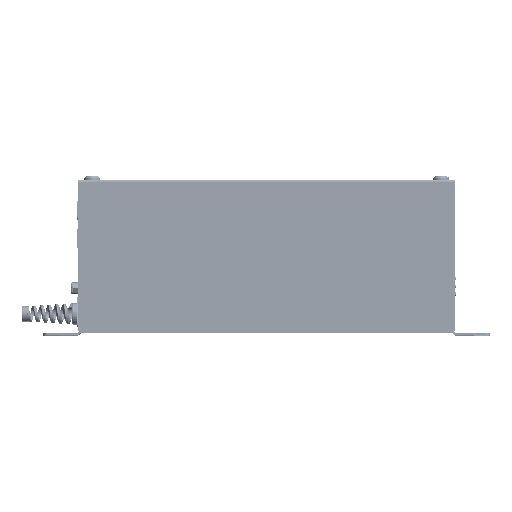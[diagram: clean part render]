
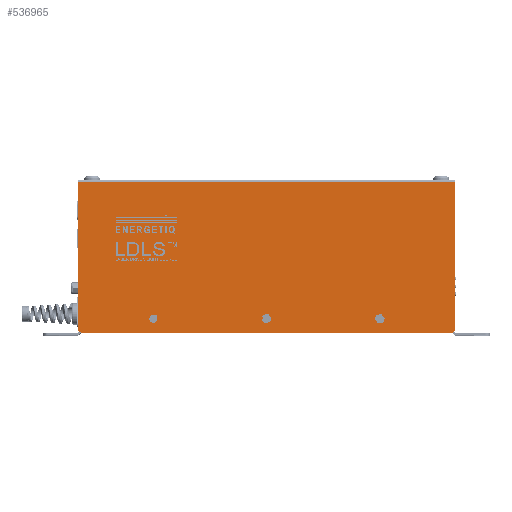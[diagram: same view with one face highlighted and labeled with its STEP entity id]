
A CAD part, top view. The second image highlights one B-rep face of the part: STEP entity #536965.
In plain terms, the highlighted planar face has unit normal (0, 0, 1) as drawn and (-1, 0, 0) by its records, which use the part's own axes.
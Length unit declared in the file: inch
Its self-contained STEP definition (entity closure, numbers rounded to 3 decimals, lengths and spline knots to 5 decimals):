
#14165 = ORIENTED_EDGE ( 'NONE', *, *, #52339, .F. ) ;
#14169 = ORIENTED_EDGE ( 'NONE', *, *, #52070, .F. ) ;
#14173 = ORIENTED_EDGE ( 'NONE', *, *, #52343, .T. ) ;
#14176 = ORIENTED_EDGE ( 'NONE', *, *, #52348, .T. ) ;
#14179 = ORIENTED_EDGE ( 'NONE', *, *, #52355, .F. ) ;
#14182 = ORIENTED_EDGE ( 'NONE', *, *, #52359, .T. ) ;
#14185 = ORIENTED_EDGE ( 'NONE', *, *, #52364, .F. ) ;
#14188 = ORIENTED_EDGE ( 'NONE', *, *, #52369, .T. ) ;
#14191 = ORIENTED_EDGE ( 'NONE', *, *, #52374, .F. ) ;
#14195 = ORIENTED_EDGE ( 'NONE', *, *, #52092, .F. ) ;
#14198 = ORIENTED_EDGE ( 'NONE', *, *, #52378, .F. ) ;
#14201 = ORIENTED_EDGE ( 'NONE', *, *, #52051, .F. ) ;
#52051 = EDGE_CURVE ( 'NONE', #198282, #198293, #391036, .T. ) ;
#52070 = EDGE_CURVE ( 'NONE', #198315, #198326, #391079, .T. ) ;
#52092 = EDGE_CURVE ( 'NONE', #198350, #198355, #391097, .T. ) ;
#52339 = EDGE_CURVE ( 'NONE', #198326, #198315, #391316, .T. ) ;
#52343 = EDGE_CURVE ( 'NONE', #198558, #198602, #444886, .T. ) ;
#52348 = EDGE_CURVE ( 'NONE', #198602, #198614, #391312, .T. ) ;
#52355 = EDGE_CURVE ( 'NONE', #198607, #198614, #444994, .T. ) ;
#52359 = EDGE_CURVE ( 'NONE', #198607, #198628, #391332, .T. ) ;
#52364 = EDGE_CURVE ( 'NONE', #198592, #198628, #445070, .T. ) ;
#52369 = EDGE_CURVE ( 'NONE', #198592, #198558, #445042, .T. ) ;
#52374 = EDGE_CURVE ( 'NONE', #198355, #198350, #391340, .T. ) ;
#52378 = EDGE_CURVE ( 'NONE', #198293, #198282, #391338, .T. ) ;
#91470 = CARTESIAN_POINT ( 'NONE',  ( -2.1875, 0.375, 3.1065 ) ) ;
#91481 = CARTESIAN_POINT ( 'NONE',  ( -2.1875, 0.375, 2.8935 ) ) ;
#91484 = CARTESIAN_POINT ( 'NONE',  ( -2.1875, 0.375, -3.1065 ) ) ;
#91494 = CARTESIAN_POINT ( 'NONE',  ( -2.1875, 0.375, -0.1065 ) ) ;
#91498 = CARTESIAN_POINT ( 'NONE',  ( -2.1875, 0.375, -2.8935 ) ) ;
#91510 = CARTESIAN_POINT ( 'NONE',  ( -2.1875, 0.375, 0.1065 ) ) ;
#91581 = CARTESIAN_POINT ( 'NONE',  ( -2.1875, 3.995, -5. ) ) ;
#91593 = CARTESIAN_POINT ( 'NONE',  ( -2.1875, 3.995, 5. ) ) ;
#91600 = CARTESIAN_POINT ( 'NONE',  ( -2.1875, 0.12, -5. ) ) ;
#91606 = CARTESIAN_POINT ( 'NONE',  ( -2.1875, 0., -4.88 ) ) ;
#91609 = CARTESIAN_POINT ( 'NONE',  ( -2.1875, 0.12, 5. ) ) ;
#91612 = CARTESIAN_POINT ( 'NONE',  ( -2.1875, 0., 4.88 ) ) ;
#193683 = EDGE_LOOP ( 'NONE', ( #14165, #14169 ) ) ;
#193690 = EDGE_LOOP ( 'NONE', ( #14173, #14176, #14179, #14182, #14185, #14188 ) ) ;
#193696 = EDGE_LOOP ( 'NONE', ( #14198, #14201 ) ) ;
#193702 = EDGE_LOOP ( 'NONE', ( #14191, #14195 ) ) ;
#198282 = VERTEX_POINT ( 'NONE', #91481 ) ;
#198293 = VERTEX_POINT ( 'NONE', #91470 ) ;
#198315 = VERTEX_POINT ( 'NONE', #91484 ) ;
#198326 = VERTEX_POINT ( 'NONE', #91498 ) ;
#198350 = VERTEX_POINT ( 'NONE', #91494 ) ;
#198355 = VERTEX_POINT ( 'NONE', #91510 ) ;
#198558 = VERTEX_POINT ( 'NONE', #91581 ) ;
#198592 = VERTEX_POINT ( 'NONE', #91593 ) ;
#198602 = VERTEX_POINT ( 'NONE', #91600 ) ;
#198607 = VERTEX_POINT ( 'NONE', #91612 ) ;
#198614 = VERTEX_POINT ( 'NONE', #91606 ) ;
#198628 = VERTEX_POINT ( 'NONE', #91609 ) ;
#329906 = AXIS2_PLACEMENT_3D ( 'NONE', #541104, #541115, #541119 ) ;
#391033 = AXIS2_PLACEMENT_3D ( 'NONE', #443006, #443011, #443017 ) ;
#391036 = CIRCLE ( 'NONE', #391033, 0.1065 ) ;
#391059 = AXIS2_PLACEMENT_3D ( 'NONE', #443132, #443139, #443147 ) ;
#391079 = CIRCLE ( 'NONE', #391059, 0.1065 ) ;
#391093 = AXIS2_PLACEMENT_3D ( 'NONE', #443279, #443285, #443291 ) ;
#391097 = CIRCLE ( 'NONE', #391093, 0.1065 ) ;
#391312 = CIRCLE ( 'NONE', #391321, 0.12 ) ;
#391316 = CIRCLE ( 'NONE', #391323, 0.1065 ) ;
#391321 = AXIS2_PLACEMENT_3D ( 'NONE', #444999, #445009, #445016 ) ;
#391323 = AXIS2_PLACEMENT_3D ( 'NONE', #444910, #444919, #444929 ) ;
#391327 = VECTOR ( 'NONE', #444954, 39.37008 ) ;
#391329 = AXIS2_PLACEMENT_3D ( 'NONE', #445078, #445084, #445092 ) ;
#391332 = CIRCLE ( 'NONE', #391329, 0.12 ) ;
#391334 = VECTOR ( 'NONE', #445035, 39.37008 ) ;
#391336 = VECTOR ( 'NONE', #445107, 39.37008 ) ;
#391338 = CIRCLE ( 'NONE', #391349, 0.1065 ) ;
#391340 = CIRCLE ( 'NONE', #391342, 0.1065 ) ;
#391342 = AXIS2_PLACEMENT_3D ( 'NONE', #445201, #445210, #445219 ) ;
#391345 = VECTOR ( 'NONE', #445149, 39.37008 ) ;
#391349 = AXIS2_PLACEMENT_3D ( 'NONE', #445253, #445260, #445269 ) ;
#443006 = CARTESIAN_POINT ( 'NONE',  ( -2.1875, 0.375, 3. ) ) ;
#443011 = DIRECTION ( 'NONE',  ( -1., 0., 0. ) ) ;
#443017 = DIRECTION ( 'NONE',  ( 0., 0., 1. ) ) ;
#443132 = CARTESIAN_POINT ( 'NONE',  ( -2.1875, 0.375, -3. ) ) ;
#443139 = DIRECTION ( 'NONE',  ( -1., 0., 0. ) ) ;
#443147 = DIRECTION ( 'NONE',  ( 0., 0., 1. ) ) ;
#443279 = CARTESIAN_POINT ( 'NONE',  ( -2.1875, 0.375, 0. ) ) ;
#443285 = DIRECTION ( 'NONE',  ( -1., 0., 0. ) ) ;
#443291 = DIRECTION ( 'NONE',  ( 0., 0., 1. ) ) ;
#444886 = LINE ( 'NONE', #444945, #391327 ) ;
#444910 = CARTESIAN_POINT ( 'NONE',  ( -2.1875, 0.375, -3. ) ) ;
#444919 = DIRECTION ( 'NONE',  ( -1., 0., 0. ) ) ;
#444929 = DIRECTION ( 'NONE',  ( 0., 0., 1. ) ) ;
#444945 = CARTESIAN_POINT ( 'NONE',  ( -2.1875, 4., -5. ) ) ;
#444954 = DIRECTION ( 'NONE',  ( 0., -1., 0. ) ) ;
#444994 = LINE ( 'NONE', #445029, #391334 ) ;
#444999 = CARTESIAN_POINT ( 'NONE',  ( -2.1875, 0.12, -4.88 ) ) ;
#445009 = DIRECTION ( 'NONE',  ( -1., 0., 0. ) ) ;
#445016 = DIRECTION ( 'NONE',  ( 0., 1., 0. ) ) ;
#445029 = CARTESIAN_POINT ( 'NONE',  ( -2.1875, 0., 5. ) ) ;
#445035 = DIRECTION ( 'NONE',  ( 0., 0., -1. ) ) ;
#445042 = LINE ( 'NONE', #445056, #391345 ) ;
#445048 = CARTESIAN_POINT ( 'NONE',  ( -2.1875, 4., 5. ) ) ;
#445056 = CARTESIAN_POINT ( 'NONE',  ( -2.1875, 3.995, 5. ) ) ;
#445070 = LINE ( 'NONE', #445048, #391336 ) ;
#445078 = CARTESIAN_POINT ( 'NONE',  ( -2.1875, 0.12, 4.88 ) ) ;
#445084 = DIRECTION ( 'NONE',  ( -1., 0., 0. ) ) ;
#445092 = DIRECTION ( 'NONE',  ( 0., 1., 0. ) ) ;
#445107 = DIRECTION ( 'NONE',  ( 0., -1., 0. ) ) ;
#445149 = DIRECTION ( 'NONE',  ( 0., 0., -1. ) ) ;
#445201 = CARTESIAN_POINT ( 'NONE',  ( -2.1875, 0.375, 0. ) ) ;
#445210 = DIRECTION ( 'NONE',  ( -1., 0., 0. ) ) ;
#445219 = DIRECTION ( 'NONE',  ( 0., 0., 1. ) ) ;
#445253 = CARTESIAN_POINT ( 'NONE',  ( -2.1875, 0.375, 3. ) ) ;
#445260 = DIRECTION ( 'NONE',  ( -1., 0., 0. ) ) ;
#445269 = DIRECTION ( 'NONE',  ( 0., 0., 1. ) ) ;
#536965 = ADVANCED_FACE ( 'NONE', ( #541095, #541101, #541107, #541086 ), #541092, .F. ) ;
#541086 = FACE_BOUND ( 'NONE', #193696, .T. ) ;
#541092 = PLANE ( 'NONE',  #329906 ) ;
#541095 = FACE_BOUND ( 'NONE', #193683, .T. ) ;
#541101 = FACE_OUTER_BOUND ( 'NONE', #193690, .T. ) ;
#541104 = CARTESIAN_POINT ( 'NONE',  ( -2.1875, 4., 5. ) ) ;
#541107 = FACE_BOUND ( 'NONE', #193702, .T. ) ;
#541115 = DIRECTION ( 'NONE',  ( 1., 0., 0. ) ) ;
#541119 = DIRECTION ( 'NONE',  ( 0., 1., 0. ) ) ;
